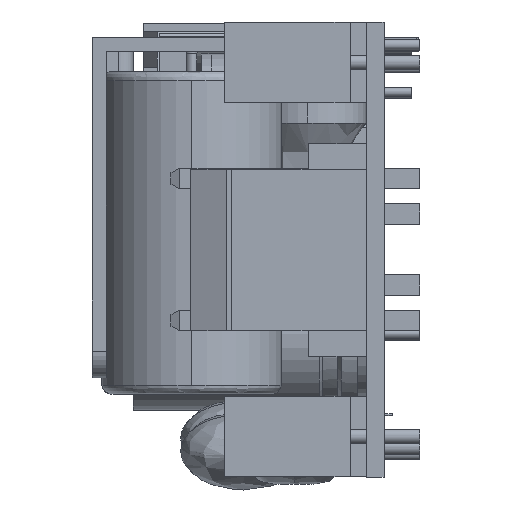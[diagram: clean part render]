
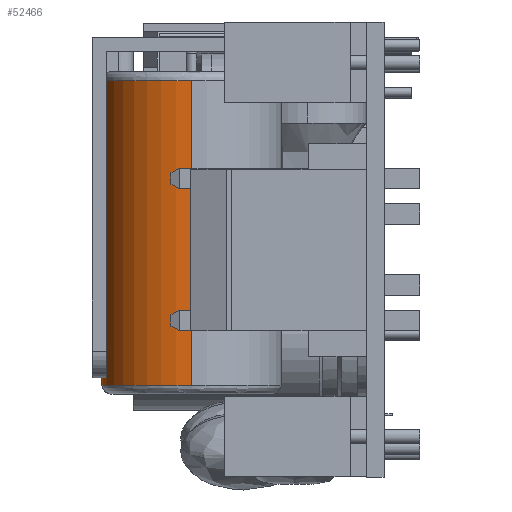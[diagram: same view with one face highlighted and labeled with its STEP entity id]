
A CAD part, left-side view. The second image highlights one B-rep face of the part: STEP entity #52466.
In plain terms, the highlighted cylindrical face has radius 5 mm (diameter 10 mm), a partial arc.
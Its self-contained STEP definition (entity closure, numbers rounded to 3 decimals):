
#5882 = DIRECTION ( 'NONE',  ( 0., 0., -1. ) ) ;
#6841 = CARTESIAN_POINT ( 'NONE',  ( -12.613, 11.289, 75.622 ) ) ;
#9160 = CARTESIAN_POINT ( 'NONE',  ( -7.613, 11.289, 58.622 ) ) ;
#10842 = ORIENTED_EDGE ( 'NONE', *, *, #12730, .F. ) ;
#12640 = ORIENTED_EDGE ( 'NONE', *, *, #16496, .T. ) ;
#12730 = EDGE_CURVE ( 'NONE', #43138, #82838, #69730, .T. ) ;
#12855 = CARTESIAN_POINT ( 'NONE',  ( -7.613, 11.289, 75.622 ) ) ;
#13530 = DIRECTION ( 'NONE',  ( -1., 0., 0. ) ) ;
#16496 = EDGE_CURVE ( 'NONE', #43138, #57872, #19294, .T. ) ;
#18067 = VERTEX_POINT ( 'NONE', #66588 ) ;
#19294 = CIRCLE ( 'NONE', #68315, 5. ) ;
#19712 = ORIENTED_EDGE ( 'NONE', *, *, #62310, .T. ) ;
#21202 = CARTESIAN_POINT ( 'NONE',  ( -12.613, 11.289, 58.622 ) ) ;
#24108 = EDGE_CURVE ( 'NONE', #70965, #65258, #38750, .T. ) ;
#25496 = DIRECTION ( 'NONE',  ( -1., 0., 0. ) ) ;
#25803 = ORIENTED_EDGE ( 'NONE', *, *, #43695, .T. ) ;
#27079 = CIRCLE ( 'NONE', #41035, 5. ) ;
#27905 = DIRECTION ( 'NONE',  ( -1., 0., 0. ) ) ;
#31609 = DIRECTION ( 'NONE',  ( 0., 0., -1. ) ) ;
#31894 = CARTESIAN_POINT ( 'NONE',  ( -12.613, 11.289, 76.122 ) ) ;
#33223 = EDGE_CURVE ( 'NONE', #57872, #70965, #67768, .T. ) ;
#35055 = CARTESIAN_POINT ( 'NONE',  ( -12.613, 11.289, 58.622 ) ) ;
#36336 = CARTESIAN_POINT ( 'NONE',  ( -12.613, 11.289, 75.622 ) ) ;
#38524 = EDGE_LOOP ( 'NONE', ( #12640, #50032, #44424, #19712, #25803, #10842 ) ) ;
#38750 = LINE ( 'NONE', #52523, #56488 ) ;
#39418 = AXIS2_PLACEMENT_3D ( 'NONE', #35055, #81615, #41759 ) ;
#41035 = AXIS2_PLACEMENT_3D ( 'NONE', #21202, #67850, #27905 ) ;
#41759 = DIRECTION ( 'NONE',  ( -1., 0., 0. ) ) ;
#43040 = DIRECTION ( 'NONE',  ( -1., 0., 0. ) ) ;
#43138 = VERTEX_POINT ( 'NONE', #60274 ) ;
#43695 = EDGE_CURVE ( 'NONE', #18067, #82838, #51246, .T. ) ;
#44424 = ORIENTED_EDGE ( 'NONE', *, *, #24108, .T. ) ;
#49950 = VECTOR ( 'NONE', #67952, 1000. ) ;
#50032 = ORIENTED_EDGE ( 'NONE', *, *, #33223, .T. ) ;
#51246 = CIRCLE ( 'NONE', #39418, 5. ) ;
#52466 = ADVANCED_FACE ( 'NONE', ( #70248 ), #61912, .T. ) ;
#52523 = CARTESIAN_POINT ( 'NONE',  ( -7.613, 11.289, 76.122 ) ) ;
#53473 = DIRECTION ( 'NONE',  ( 0., 0., -1. ) ) ;
#56488 = VECTOR ( 'NONE', #5882, 1000. ) ;
#57872 = VERTEX_POINT ( 'NONE', #63192 ) ;
#58403 = AXIS2_PLACEMENT_3D ( 'NONE', #31894, #31609, #25496 ) ;
#60274 = CARTESIAN_POINT ( 'NONE',  ( -17.613, 11.289, 75.622 ) ) ;
#61912 = CYLINDRICAL_SURFACE ( 'NONE', #58403, 5. ) ;
#62310 = EDGE_CURVE ( 'NONE', #65258, #18067, #27079, .T. ) ;
#63192 = CARTESIAN_POINT ( 'NONE',  ( -12.613, 16.289, 75.622 ) ) ;
#65258 = VERTEX_POINT ( 'NONE', #9160 ) ;
#66588 = CARTESIAN_POINT ( 'NONE',  ( -12.613, 16.289, 58.622 ) ) ;
#67768 = CIRCLE ( 'NONE', #73786, 5. ) ;
#67850 = DIRECTION ( 'NONE',  ( 0., 0., 1. ) ) ;
#67952 = DIRECTION ( 'NONE',  ( 0., 0., -1. ) ) ;
#68315 = AXIS2_PLACEMENT_3D ( 'NONE', #6841, #53473, #13530 ) ;
#69730 = LINE ( 'NONE', #81267, #49950 ) ;
#70248 = FACE_OUTER_BOUND ( 'NONE', #38524, .T. ) ;
#70644 = CARTESIAN_POINT ( 'NONE',  ( -17.613, 11.289, 58.622 ) ) ;
#70965 = VERTEX_POINT ( 'NONE', #12855 ) ;
#73786 = AXIS2_PLACEMENT_3D ( 'NONE', #36336, #82905, #43040 ) ;
#81267 = CARTESIAN_POINT ( 'NONE',  ( -17.613, 11.289, 76.122 ) ) ;
#81615 = DIRECTION ( 'NONE',  ( 0., 0., 1. ) ) ;
#82838 = VERTEX_POINT ( 'NONE', #70644 ) ;
#82905 = DIRECTION ( 'NONE',  ( 0., 0., -1. ) ) ;
